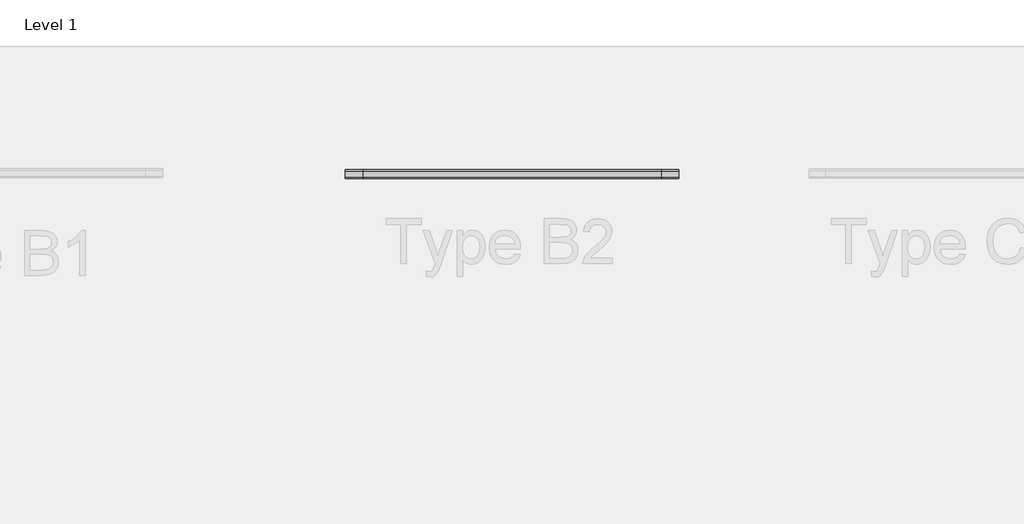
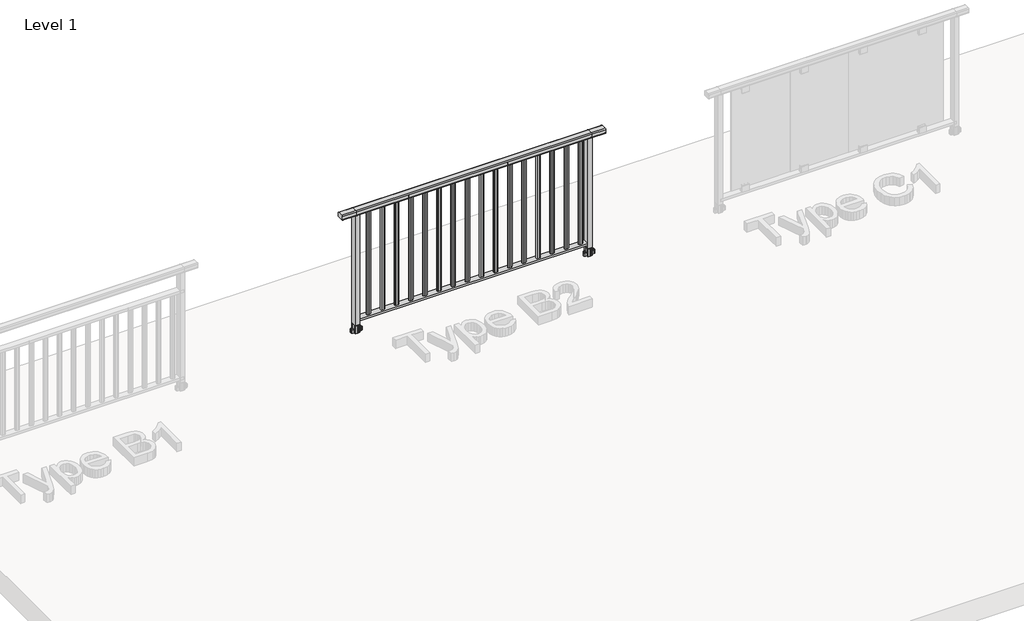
# One storey, part 4 of 9: 1 railing.
"""IFC4 building model written with IfcOpenShell, lengths in millimetres."""

import ifcopenshell
import ifcopenshell.guid

model = None  # the IFC model being written
_history = None  # IfcOwnerHistory: only IFC2X3 demands one
_inside = {}  # id of a spatial element -> (the spatial element, [elements in it])
_under = {}  # id of a project, library or spatial element -> (it, [spatial elements below it])
_declared = {}  # id of a project -> (the project, [libraries it declares])
_typed = {}  # id of a type object -> (the type object, [elements of that type])
_made_of = {}  # id of a material, layer set ... -> (it, [elements and type objects made of it])


def new_model(schema):
    """Start an empty IFC model of exactly this schema.

    Asked for "IFC4X3", IfcOpenShell would pick the latest addendum, in which some entities
    have other attributes; the version numbers below select the first issue.
    IFC2X3 requires an IfcOwnerHistory on every rooted entity: one is made here for all.
    """
    global model, _history
    if schema == "IFC4X3":
        model = ifcopenshell.file(schema_version=(4, 3, 0, 0))
    else:
        model = ifcopenshell.file(schema=schema)
    _inside.clear()
    _under.clear()
    _declared.clear()
    _typed.clear()
    _made_of.clear()
    _history = None
    if model.schema == "IFC2X3":
        org = make("IfcOrganization", Name="unknown")
        user = make(
            "IfcPersonAndOrganization",
            ThePerson=make("IfcPerson", FamilyName="unknown"),
            TheOrganization=org,
        )
        app = make(
            "IfcApplication",
            ApplicationDeveloper=org,
            Version="unknown",
            ApplicationFullName="unknown",
            ApplicationIdentifier="unknown",
        )
        _history = make(
            "IfcOwnerHistory",
            OwningUser=user,
            OwningApplication=app,
            ChangeAction="ADDED",
            CreationDate=0,
        )
    return model


def make(cls, **values):
    """One entity of the class cls with the attributes given. An attribute that is None is left unset."""
    return model.create_entity(
        cls, **{name: value for name, value in values.items() if value is not None}
    )


def rooted(cls, **values):
    """An entity with a GlobalId (a new one), such as an element, a storey or a relation."""
    return make(cls, GlobalId=ifcopenshell.guid.new(), OwnerHistory=_history, **values)


def si_unit(unit_type, name, prefix=None):
    """IfcSIUnit, for example si_unit("LENGTHUNIT", "METRE", prefix="MILLI")."""
    return make("IfcSIUnit", UnitType=unit_type, Prefix=prefix, Name=name)


def assignment(units):
    """IfcUnitAssignment: the units of a project."""
    return None if units is None else make("IfcUnitAssignment", Units=units)


def point(xyz):
    """IfcCartesianPoint."""
    return None if xyz is None else make("IfcCartesianPoint", Coordinates=xyz)


def direction(xyz):
    """IfcDirection."""
    return None if xyz is None else make("IfcDirection", DirectionRatios=xyz)


def frame(location, z_axis=None, x_axis=None):
    """IfcAxis2Placement3D, a coordinate frame: its origin and axes. An axis left out is left unset."""
    return make(
        "IfcAxis2Placement3D",
        Location=point(location),
        Axis=direction(z_axis),
        RefDirection=direction(x_axis),
    )


def frame_2d(location, x_axis=None):
    """IfcAxis2Placement2D, a coordinate frame in the plane: its origin and x axis."""
    return make(
        "IfcAxis2Placement2D", Location=point(location), RefDirection=direction(x_axis)
    )


def origin():
    """The frame at (0, 0, 0) with its axes left unset."""
    return frame((0.0, 0.0, 0.0))


def origin_with_axes():
    """The frame at (0, 0, 0) with the z axis (0, 0, 1) and the x axis (1, 0, 0) written out."""
    return frame((0.0, 0.0, 0.0), z_axis=(0.0, 0.0, 1.0), x_axis=(1.0, 0.0, 0.0))


def place(relative_to, where):
    """IfcLocalPlacement: puts the frame where relative to a parent placement (None: the world)."""
    return make(
        "IfcLocalPlacement", PlacementRelTo=relative_to, RelativePlacement=where
    )


def context(
    kind, dimensions, precision=None, world=None, true_north=None, identifier=None
):
    """IfcGeometricRepresentationContext, for example the 3D "Model" context."""
    return make(
        "IfcGeometricRepresentationContext",
        ContextIdentifier=identifier,
        ContextType=kind,
        CoordinateSpaceDimension=dimensions,
        Precision=precision,
        WorldCoordinateSystem=world,
        TrueNorth=true_north,
    )


def project(units=None, contexts=None):
    """IfcProject with its units and contexts."""
    return rooted(
        "IfcProject",
        Name="project",
        RepresentationContexts=contexts,
        UnitsInContext=assignment(units),
    )


def spatial(cls, under=None, at=None, **own):
    """A site, building, storey or space (cls), placed at a placement, below another one or the project."""
    s = rooted(cls, ObjectPlacement=at, **own)
    if under is not None:
        _under.setdefault(under.id(), (under, []))[1].append(s)
    return s


def polyline(points):
    """IfcPolyline through the points."""
    return make("IfcPolyline", Points=[point(p) for p in points])


def circle_curve(where, radius):
    """IfcCircle in the frame where."""
    return make("IfcCircle", Position=where, Radius=radius)


def trimmed(basis, trim1, trim2, sense, master):
    """IfcTrimmedCurve: the piece of a basis curve between two trims."""
    return make(
        "IfcTrimmedCurve",
        BasisCurve=basis,
        Trim1=trim1,
        Trim2=trim2,
        SenseAgreement=sense,
        MasterRepresentation=master,
    )


def segment(curve, same_sense, transition):
    """IfcCompositeCurveSegment."""
    return make(
        "IfcCompositeCurveSegment",
        Transition=transition,
        SameSense=same_sense,
        ParentCurve=curve,
    )


def composite_curve(segments, self_intersect=None):
    """IfcCompositeCurve: segments joined end to end."""
    return make("IfcCompositeCurve", Segments=segments, SelfIntersect=self_intersect)


def outline(outer, holes=None, kind="AREA"):
    """IfcArbitraryClosedProfileDef: a profile drawn as a closed curve; with holes, ...WithVoids."""
    if holes is None:
        return make("IfcArbitraryClosedProfileDef", ProfileType=kind, OuterCurve=outer)
    return make(
        "IfcArbitraryProfileDefWithVoids",
        ProfileType=kind,
        OuterCurve=outer,
        InnerCurves=holes,
    )


def extrude(swept, where, along, depth):
    """IfcExtrudedAreaSolid: the profile swept, set in the frame where, extruded along a direction by depth."""
    return make(
        "IfcExtrudedAreaSolid",
        SweptArea=swept,
        Position=where,
        ExtrudedDirection=direction(along),
        Depth=depth,
    )


def shape(context_of_items, identifier, shape_type, items):
    """IfcShapeRepresentation: the items that make up one representation, for example the "Body"."""
    return make(
        "IfcShapeRepresentation",
        ContextOfItems=context_of_items,
        RepresentationIdentifier=identifier,
        RepresentationType=shape_type,
        Items=items,
    )


def made_of(thing, what):
    """Note that an element or type object is made of a material, layer set ...; save() writes the relation."""
    if what is not None:
        _made_of.setdefault(what.id(), (what, []))[1].append(thing)
    return thing


def element(
    cls,
    number,
    at=None,
    inside=None,
    cuts=None,
    type_object=None,
    material=None,
    context=None,
    identifier="Body",
    shape_type=None,
    held_by="IfcProductDefinitionShape",
    body=None,
    shapes=None,
    **own,
):
    """One element of the class cls, such as IfcWall. Its Tag is "e" and its number.

    at: its placement. inside: the storey or other place that contains it. cuts: it is an
    opening in that element (IfcRelVoidsElement). A single representation is given by context,
    identifier, shape_type and body (its items); several are given by shapes. held_by: the class
    of the entity that holds the representations. save() writes the other relations.
    """
    e = rooted(cls, Tag="e%d" % number, ObjectPlacement=at, **own)
    if body is not None:
        shapes = [shape(context, identifier, shape_type, body)]
    if shapes is not None:
        e.Representation = make(held_by, Representations=shapes)
    if inside is not None:
        _inside.setdefault(inside.id(), (inside, []))[1].append(e)
    if cuts is not None:
        rooted(
            "IfcRelVoidsElement", RelatingBuildingElement=cuts, RelatedOpeningElement=e
        )
    if type_object is not None:
        _typed.setdefault(type_object.id(), (type_object, []))[1].append(e)
    return made_of(e, material)


def aggregate(whole, parts):
    """IfcRelAggregates: a whole, such as a stair, and the parts it consists of."""
    return rooted("IfcRelAggregates", RelatingObject=whole, RelatedObjects=parts)


def save(model, path):
    """Write the relations noted so far, then the file.

    IfcRelAggregates (storeys below a building ...), IfcRelContainedInSpatialStructure (elements
    in a storey), IfcRelDefinesByType, IfcRelAssociatesMaterial and IfcRelDeclares: one each for
    every whole, place, type object, material and project.
    """
    for whole, parts in _under.values():
        aggregate(whole, parts)
    for where, things in _inside.values():
        rooted(
            "IfcRelContainedInSpatialStructure",
            RelatedElements=things,
            RelatingStructure=where,
        )
    for kind, things in _typed.values():
        rooted("IfcRelDefinesByType", RelatedObjects=things, RelatingType=kind)
    for what, things in _made_of.values():
        rooted("IfcRelAssociatesMaterial", RelatedObjects=things, RelatingMaterial=what)
    for by, libraries in _declared.values():
        rooted("IfcRelDeclares", RelatingContext=by, RelatedDefinitions=libraries)
    model.write(path)


def plane_surface(at):
    """IfcPlane: the flat surface through the origin of the frame at, square to its z axis."""
    return make("IfcPlane", Position=at)


def cylinder_surface(at, radius):
    """IfcCylindricalSurface: all points at the distance radius from the z axis of the frame at."""
    return make("IfcCylindricalSurface", Position=at, Radius=radius)


def advanced_brep(points, edges, surfaces, faces):
    """IfcAdvancedBrep: a solid bounded by faces that lie on surfaces and meet in shared edges.

    An edge is (start, end): straight between two places in points (the first is 0);
    or (start, end, curve); or (start, end, curve, False) where it runs against its curve.
    A face is (place in surfaces, loops), or (place, loops, False) where it looks against
    its surface's normal. A loop lists edges by number (the first is 1), with a minus sign
    where the edge is run from its end to its start. The first loop is the outer one.
    """
    corners = [point(p) for p in points]
    vertices = [make("IfcVertexPoint", VertexGeometry=c) for c in corners]
    made = []
    for start, end, *more in edges:
        made.append(
            make(
                "IfcEdgeCurve",
                EdgeStart=vertices[start],
                EdgeEnd=vertices[end],
                EdgeGeometry=more[0] if more else make("IfcPolyline", Points=[corners[start], corners[end]]),
                SameSense=more[1] if len(more) > 1 else True,
            )
        )
    hull = []
    for where, loops, *sense in faces:
        bounds = []
        for j, loop in enumerate(loops):
            ring = [make("IfcOrientedEdge", EdgeElement=made[abs(k) - 1], Orientation=k > 0) for k in loop]
            bounds.append(
                make(
                    "IfcFaceOuterBound" if j == 0 else "IfcFaceBound",
                    Bound=make("IfcEdgeLoop", EdgeList=ring),
                    Orientation=True,
                )
            )
        hull.append(make("IfcAdvancedFace", Bounds=bounds, FaceSurface=surfaces[where], SameSense=sense[0] if sense else True))
    return make("IfcAdvancedBrep", Outer=make("IfcClosedShell", CfsFaces=hull))


model = new_model("IFC4")

# Units and contexts
model_context = context("Model", 3, world=origin())
ifc_project = project(units=[si_unit("LENGTHUNIT", "METRE", prefix="MILLI")], contexts=[model_context])

# Site, building, storey
site = spatial("IfcSite", under=ifc_project)
building = spatial("IfcBuilding", under=site)
storey = spatial("IfcBuildingStorey", under=building, Name="Level 1", Elevation=0.0)

# Railing
placement = place(None, origin())
element("IfcRailing", 1, ObjectType="OF 60 TYPE B2", at=placement, inside=storey, context=model_context, shape_type="SolidModel", body=[
    advanced_brep(
    [(203.9717845, 1937.6242154, 1100.0), (203.9717845, 1945.6242154, 1092.0), (203.9717845, 1945.6242154, 1064.0), (203.9717845, 1941.6242154, 1060.0), (203.9717845, 1889.6242154, 1060.0), (203.9717845, 1885.6242154, 1064.0), (203.9717845, 1885.6242154, 1092.0), (203.9717845, 1893.6242154, 1100.0), (320.9697911, 1937.6242154, 1100.0), (320.9697911, 1945.6242154, 1092.0), (320.9697911, 1945.6242154, 1064.0), (320.9697911, 1941.6242154, 1060.0), (320.9697911, 1889.6242154, 1060.0), (320.9697911, 1885.6242154, 1064.0), (320.9697911, 1885.6242154, 1092.0), (320.9697911, 1893.6242154, 1100.0), (2320.9697911, 1937.6242154, 1100.0), (2320.9697911, 1945.6242154, 1092.0), (2320.9697911, 1945.6242154, 1064.0), (2320.9697911, 1941.6242154, 1060.0), (2320.9697911, 1889.6242154, 1060.0), (2320.9697911, 1885.6242154, 1064.0), (2320.9697911, 1885.6242154, 1092.0), (2320.9697911, 1893.6242154, 1100.0), (2437.9677978, 1937.6242154, 1100.0), (2437.9677978, 1893.6242154, 1100.0), (2437.9677978, 1885.6242154, 1092.0), (2437.9677978, 1885.6242154, 1064.0), (2437.9677978, 1889.6242154, 1060.0), (2437.9677978, 1941.6242154, 1060.0), (2437.9677978, 1945.6242154, 1064.0), (2437.9677978, 1945.6242154, 1092.0)],
    [
        (0, 1, circle_curve(frame((203.9717845, 1937.6242154, 1092.0), z_axis=(-1.0, 0.0, 0.0), x_axis=(0.0, 1.0, 0.0)), 8.0)),
        (1, 2),
        (2, 3, circle_curve(frame((203.9717845, 1941.6242154, 1064.0), z_axis=(-1.0, 0.0, 0.0), x_axis=(0.0, 0.0, -1.0)), 4.0)),
        (3, 4),
        (4, 5, circle_curve(frame((203.9717845, 1889.6242154, 1064.0), z_axis=(-1.0, 0.0, 0.0), x_axis=(0.0, -1.0, 0.0)), 4.0)),
        (5, 6),
        (6, 7, circle_curve(frame((203.9717845, 1893.6242154, 1092.0), z_axis=(-1.0, 0.0, 0.0), x_axis=(0.0, 0.0, 1.0)), 8.0)),
        (7, 0),
        (0, 8),
        (8, 9, circle_curve(frame((320.9697911, 1937.6242154, 1092.0), z_axis=(-1.0, 0.0, 0.0), x_axis=(0.0, 1.0, 0.0)), 8.0)),
        (9, 1),
        (9, 10),
        (10, 2),
        (10, 11, circle_curve(frame((320.9697911, 1941.6242154, 1064.0), z_axis=(-1.0, 0.0, 0.0), x_axis=(0.0, 0.0, -1.0)), 4.0)),
        (11, 3),
        (11, 12),
        (12, 4),
        (12, 13, circle_curve(frame((320.9697911, 1889.6242154, 1064.0), z_axis=(-1.0, 0.0, 0.0), x_axis=(0.0, -1.0, 0.0)), 4.0)),
        (13, 5),
        (13, 14),
        (14, 6),
        (14, 15, circle_curve(frame((320.9697911, 1893.6242154, 1092.0), z_axis=(-1.0, 0.0, 0.0), x_axis=(0.0, 0.0, 1.0)), 8.0)),
        (15, 7),
        (15, 8),
        (8, 16),
        (16, 17, circle_curve(frame((2320.9697911, 1937.6242154, 1092.0), z_axis=(-1.0, 0.0, 0.0), x_axis=(0.0, 1.0, 0.0)), 8.0)),
        (17, 9),
        (17, 18),
        (18, 10),
        (18, 19, circle_curve(frame((2320.9697911, 1941.6242154, 1064.0), z_axis=(-1.0, 0.0, 0.0), x_axis=(0.0, 0.0, -1.0)), 4.0)),
        (19, 11),
        (19, 20),
        (20, 12),
        (20, 21, circle_curve(frame((2320.9697911, 1889.6242154, 1064.0), z_axis=(-1.0, 0.0, 0.0), x_axis=(0.0, -1.0, 0.0)), 4.0)),
        (21, 13),
        (21, 22),
        (22, 14),
        (22, 23, circle_curve(frame((2320.9697911, 1893.6242154, 1092.0), z_axis=(-1.0, 0.0, 0.0), x_axis=(0.0, 0.0, 1.0)), 8.0)),
        (23, 15),
        (23, 16),
        (24, 25),
        (25, 26, circle_curve(frame((2437.9677978, 1893.6242154, 1092.0), z_axis=(1.0, 0.0, 0.0), x_axis=(0.0, 0.0, 1.0)), 8.0)),
        (26, 27),
        (27, 28, circle_curve(frame((2437.9677978, 1889.6242154, 1064.0), z_axis=(1.0, 0.0, 0.0), x_axis=(0.0, -1.0, 0.0)), 4.0)),
        (28, 29),
        (29, 30, circle_curve(frame((2437.9677978, 1941.6242154, 1064.0), z_axis=(1.0, 0.0, 0.0), x_axis=(0.0, 0.0, -1.0)), 4.0)),
        (30, 31),
        (31, 24, circle_curve(frame((2437.9677978, 1937.6242154, 1092.0), z_axis=(1.0, 0.0, 0.0), x_axis=(0.0, 1.0, 0.0)), 8.0)),
        (16, 24),
        (31, 17),
        (30, 18),
        (29, 19),
        (28, 20),
        (27, 21),
        (26, 22),
        (25, 23),
    ],
    [
        plane_surface(frame((203.9717845, 1945.6242154, 1100.0), z_axis=(-1.0, 0.0, 0.0), x_axis=(0.0, 1.0, 0.0))),
        cylinder_surface(frame((203.9717845, 1937.6242154, 1092.0), z_axis=(-1.0, 0.0, 0.0), x_axis=(0.0, 1.0, 0.0)), 8.0),
        plane_surface(frame((203.9717845, 1945.6242154, 1092.0), z_axis=(0.0, 1.0, 0.0), x_axis=(1.0, 0.0, 0.0))),
        cylinder_surface(frame((203.9717845, 1941.6242154, 1064.0), z_axis=(-1.0, 0.0, 0.0), x_axis=(0.0, 0.0, -1.0)), 4.0),
        plane_surface(frame((203.9717845, 1941.6242154, 1060.0), z_axis=(0.0, 0.0, -1.0), x_axis=(1.0, 0.0, 0.0))),
        cylinder_surface(frame((203.9717845, 1889.6242154, 1064.0), z_axis=(-1.0, 0.0, 0.0), x_axis=(0.0, -1.0, 0.0)), 4.0),
        plane_surface(frame((203.9717845, 1885.6242154, 1064.0), z_axis=(0.0, -1.0, 0.0), x_axis=(1.0, 0.0, 0.0))),
        cylinder_surface(frame((203.9717845, 1893.6242154, 1092.0), z_axis=(-1.0, 0.0, 0.0), x_axis=(0.0, 0.0, 1.0)), 8.0),
        plane_surface(frame((203.9717845, 1893.6242154, 1100.0), z_axis=(0.0, 0.0, 1.0), x_axis=(1.0, 0.0, 0.0))),
        cylinder_surface(frame((320.9697911, 1937.6242154, 1092.0), z_axis=(-1.0, 0.0, 0.0), x_axis=(0.0, 1.0, 0.0)), 8.0),
        plane_surface(frame((320.9697911, 1945.6242154, 1092.0), z_axis=(0.0, 1.0, 0.0), x_axis=(1.0, 0.0, 0.0))),
        cylinder_surface(frame((320.9697911, 1941.6242154, 1064.0), z_axis=(-1.0, 0.0, 0.0), x_axis=(0.0, 0.0, -1.0)), 4.0),
        plane_surface(frame((320.9697911, 1941.6242154, 1060.0), z_axis=(0.0, 0.0, -1.0), x_axis=(1.0, 0.0, 0.0))),
        cylinder_surface(frame((320.9697911, 1889.6242154, 1064.0), z_axis=(-1.0, 0.0, 0.0), x_axis=(0.0, -1.0, 0.0)), 4.0),
        plane_surface(frame((320.9697911, 1885.6242154, 1064.0), z_axis=(0.0, -1.0, 0.0), x_axis=(1.0, 0.0, 0.0))),
        cylinder_surface(frame((320.9697911, 1893.6242154, 1092.0), z_axis=(-1.0, 0.0, 0.0), x_axis=(0.0, 0.0, 1.0)), 8.0),
        plane_surface(frame((320.9697911, 1893.6242154, 1100.0), z_axis=(0.0, 0.0, 1.0), x_axis=(1.0, 0.0, 0.0))),
        plane_surface(frame((2437.9677978, 1945.6242154, 1100.0), z_axis=(1.0, 0.0, 0.0), x_axis=(0.0, 1.0, 0.0))),
        cylinder_surface(frame((2320.9697911, 1937.6242154, 1092.0), z_axis=(-1.0, 0.0, 0.0), x_axis=(0.0, 1.0, 0.0)), 8.0),
        plane_surface(frame((2320.9697911, 1945.6242154, 1092.0), z_axis=(0.0, 1.0, 0.0), x_axis=(1.0, 0.0, 0.0))),
        cylinder_surface(frame((2320.9697911, 1941.6242154, 1064.0), z_axis=(-1.0, 0.0, 0.0), x_axis=(0.0, 0.0, -1.0)), 4.0),
        plane_surface(frame((2320.9697911, 1941.6242154, 1060.0), z_axis=(0.0, 0.0, -1.0), x_axis=(1.0, 0.0, 0.0))),
        cylinder_surface(frame((2320.9697911, 1889.6242154, 1064.0), z_axis=(-1.0, 0.0, 0.0), x_axis=(0.0, -1.0, 0.0)), 4.0),
        plane_surface(frame((2320.9697911, 1885.6242154, 1064.0), z_axis=(0.0, -1.0, 0.0), x_axis=(1.0, 0.0, 0.0))),
        cylinder_surface(frame((2320.9697911, 1893.6242154, 1092.0), z_axis=(-1.0, 0.0, 0.0), x_axis=(0.0, 0.0, 1.0)), 8.0),
        plane_surface(frame((2320.9697911, 1893.6242154, 1100.0), z_axis=(0.0, 0.0, 1.0), x_axis=(1.0, 0.0, 0.0))),
    ],
    [
        (0, [[1, 2, 3, 4, 5, 6, 7, 8]]),
        (1, [[-1, 9, 10, 11]]),
        (2, [[-2, -11, 12, 13]]),
        (3, [[-3, -13, 14, 15]]),
        (4, [[-4, -15, 16, 17]]),
        (5, [[-5, -17, 18, 19]]),
        (6, [[-6, -19, 20, 21]]),
        (7, [[-7, -21, 22, 23]]),
        (8, [[-8, -23, 24, -9]]),
        (9, [[-10, 25, 26, 27]]),
        (10, [[-12, -27, 28, 29]]),
        (11, [[-14, -29, 30, 31]]),
        (12, [[-16, -31, 32, 33]]),
        (13, [[-18, -33, 34, 35]]),
        (14, [[-20, -35, 36, 37]]),
        (15, [[-22, -37, 38, 39]]),
        (16, [[-24, -39, 40, -25]]),
        (17, [[41, 42, 43, 44, 45, 46, 47, 48]]),
        (18, [[-26, 49, -48, 50]]),
        (19, [[-28, -50, -47, 51]]),
        (20, [[-30, -51, -46, 52]]),
        (21, [[-32, -52, -45, 53]]),
        (22, [[-34, -53, -44, 54]]),
        (23, [[-36, -54, -43, 55]]),
        (24, [[-38, -55, -42, 56]]),
        (25, [[-40, -56, -41, -49]]),
    ],
),
    extrude(outline(polyline([(320.9697911, 1893.1242154), (320.9697911, 1944.1242154), (2320.9697911, 1944.1242154), (2320.9697911, 1893.1242154), (320.9697911, 1893.1242154)])), frame((0.0, 0.0, 98.9061283), z_axis=(0.0, 0.0, 1.0), x_axis=(1.0, 0.0, 0.0)), (0.0, 0.0, 1.0), 21.0938717),
    extrude(outline(composite_curve([segment(trimmed(circle_curve(frame_2d((2248.3697911, 1915.6242154)), 10.1), [point((2258.4697911, 1915.6242154))], [point((2248.3697911, 1905.5242154))], False, "CARTESIAN"), True, "CONTINUOUS"), segment(polyline([(2248.3697911, 1905.5242154), (2233.5697911, 1905.5242154)]), True, "CONTINUOUS"), segment(trimmed(circle_curve(frame_2d((2233.5697911, 1915.6242154)), 10.1), [point((2233.5697911, 1905.5242154))], [point((2223.4697911, 1915.6242154))], False, "CARTESIAN"), True, "CONTINUOUS"), segment(trimmed(circle_curve(frame_2d((2233.5697911, 1915.6242154)), 10.1), [point((2223.4697911, 1915.6242154))], [point((2233.5697911, 1925.7242154))], False, "CARTESIAN"), True, "CONTINUOUS"), segment(polyline([(2233.5697911, 1925.7242154), (2248.3697911, 1925.7242154)]), True, "CONTINUOUS"), segment(trimmed(circle_curve(frame_2d((2248.3697911, 1915.6242154)), 10.1), [point((2248.3697911, 1925.7242154))], [point((2258.4697911, 1915.6242154))], False, "CARTESIAN"), True, "CONTINUOUS")], self_intersect=False)), frame((0.0, 0.0, 120.0), z_axis=(0.0, 0.0, 1.0), x_axis=(1.0, 0.0, 0.0)), (0.0, 0.0, 1.0), 940.0),
    extrude(outline(composite_curve([segment(trimmed(circle_curve(frame_2d((2128.3697911, 1915.6242154)), 10.1), [point((2138.4697911, 1915.6242154))], [point((2128.3697911, 1905.5242154))], False, "CARTESIAN"), True, "CONTINUOUS"), segment(polyline([(2128.3697911, 1905.5242154), (2113.5697911, 1905.5242154)]), True, "CONTINUOUS"), segment(trimmed(circle_curve(frame_2d((2113.5697911, 1915.6242154)), 10.1), [point((2113.5697911, 1905.5242154))], [point((2103.4697911, 1915.6242154))], False, "CARTESIAN"), True, "CONTINUOUS"), segment(trimmed(circle_curve(frame_2d((2113.5697911, 1915.6242154)), 10.1), [point((2103.4697911, 1915.6242154))], [point((2113.5697911, 1925.7242154))], False, "CARTESIAN"), True, "CONTINUOUS"), segment(polyline([(2113.5697911, 1925.7242154), (2128.3697911, 1925.7242154)]), True, "CONTINUOUS"), segment(trimmed(circle_curve(frame_2d((2128.3697911, 1915.6242154)), 10.1), [point((2128.3697911, 1925.7242154))], [point((2138.4697911, 1915.6242154))], False, "CARTESIAN"), True, "CONTINUOUS")], self_intersect=False)), frame((0.0, 0.0, 120.0), z_axis=(0.0, 0.0, 1.0), x_axis=(1.0, 0.0, 0.0)), (0.0, 0.0, 1.0), 940.0),
    extrude(outline(composite_curve([segment(trimmed(circle_curve(frame_2d((2008.3697911, 1915.6242154)), 10.1), [point((2018.4697911, 1915.6242154))], [point((2008.3697911, 1905.5242154))], False, "CARTESIAN"), True, "CONTINUOUS"), segment(polyline([(2008.3697911, 1905.5242154), (1993.5697911, 1905.5242154)]), True, "CONTINUOUS"), segment(trimmed(circle_curve(frame_2d((1993.5697911, 1915.6242154)), 10.1), [point((1993.5697911, 1905.5242154))], [point((1983.4697911, 1915.6242154))], False, "CARTESIAN"), True, "CONTINUOUS"), segment(trimmed(circle_curve(frame_2d((1993.5697911, 1915.6242154)), 10.1), [point((1983.4697911, 1915.6242154))], [point((1993.5697911, 1925.7242154))], False, "CARTESIAN"), True, "CONTINUOUS"), segment(polyline([(1993.5697911, 1925.7242154), (2008.3697911, 1925.7242154)]), True, "CONTINUOUS"), segment(trimmed(circle_curve(frame_2d((2008.3697911, 1915.6242154)), 10.1), [point((2008.3697911, 1925.7242154))], [point((2018.4697911, 1915.6242154))], False, "CARTESIAN"), True, "CONTINUOUS")], self_intersect=False)), frame((0.0, 0.0, 120.0), z_axis=(0.0, 0.0, 1.0), x_axis=(1.0, 0.0, 0.0)), (0.0, 0.0, 1.0), 940.0),
    extrude(outline(composite_curve([segment(trimmed(circle_curve(frame_2d((1888.3697911, 1915.6242154)), 10.1), [point((1898.4697911, 1915.6242154))], [point((1888.3697911, 1905.5242154))], False, "CARTESIAN"), True, "CONTINUOUS"), segment(polyline([(1888.3697911, 1905.5242154), (1873.5697911, 1905.5242154)]), True, "CONTINUOUS"), segment(trimmed(circle_curve(frame_2d((1873.5697911, 1915.6242154)), 10.1), [point((1873.5697911, 1905.5242154))], [point((1863.4697911, 1915.6242154))], False, "CARTESIAN"), True, "CONTINUOUS"), segment(trimmed(circle_curve(frame_2d((1873.5697911, 1915.6242154)), 10.1), [point((1863.4697911, 1915.6242154))], [point((1873.5697911, 1925.7242154))], False, "CARTESIAN"), True, "CONTINUOUS"), segment(polyline([(1873.5697911, 1925.7242154), (1888.3697911, 1925.7242154)]), True, "CONTINUOUS"), segment(trimmed(circle_curve(frame_2d((1888.3697911, 1915.6242154)), 10.1), [point((1888.3697911, 1925.7242154))], [point((1898.4697911, 1915.6242154))], False, "CARTESIAN"), True, "CONTINUOUS")], self_intersect=False)), frame((0.0, 0.0, 120.0), z_axis=(0.0, 0.0, 1.0), x_axis=(1.0, 0.0, 0.0)), (0.0, 0.0, 1.0), 940.0),
    extrude(outline(composite_curve([segment(trimmed(circle_curve(frame_2d((1768.3697911, 1915.6242154)), 10.1), [point((1778.4697911, 1915.6242154))], [point((1768.3697911, 1905.5242154))], False, "CARTESIAN"), True, "CONTINUOUS"), segment(polyline([(1768.3697911, 1905.5242154), (1753.5697911, 1905.5242154)]), True, "CONTINUOUS"), segment(trimmed(circle_curve(frame_2d((1753.5697911, 1915.6242154)), 10.1), [point((1753.5697911, 1905.5242154))], [point((1743.4697911, 1915.6242154))], False, "CARTESIAN"), True, "CONTINUOUS"), segment(trimmed(circle_curve(frame_2d((1753.5697911, 1915.6242154)), 10.1), [point((1743.4697911, 1915.6242154))], [point((1753.5697911, 1925.7242154))], False, "CARTESIAN"), True, "CONTINUOUS"), segment(polyline([(1753.5697911, 1925.7242154), (1768.3697911, 1925.7242154)]), True, "CONTINUOUS"), segment(trimmed(circle_curve(frame_2d((1768.3697911, 1915.6242154)), 10.1), [point((1768.3697911, 1925.7242154))], [point((1778.4697911, 1915.6242154))], False, "CARTESIAN"), True, "CONTINUOUS")], self_intersect=False)), frame((0.0, 0.0, 120.0), z_axis=(0.0, 0.0, 1.0), x_axis=(1.0, 0.0, 0.0)), (0.0, 0.0, 1.0), 940.0),
    extrude(outline(composite_curve([segment(trimmed(circle_curve(frame_2d((1648.3697911, 1915.6242154)), 10.1), [point((1658.4697911, 1915.6242154))], [point((1648.3697911, 1905.5242154))], False, "CARTESIAN"), True, "CONTINUOUS"), segment(polyline([(1648.3697911, 1905.5242154), (1633.5697911, 1905.5242154)]), True, "CONTINUOUS"), segment(trimmed(circle_curve(frame_2d((1633.5697911, 1915.6242154)), 10.1), [point((1633.5697911, 1905.5242154))], [point((1623.4697911, 1915.6242154))], False, "CARTESIAN"), True, "CONTINUOUS"), segment(trimmed(circle_curve(frame_2d((1633.5697911, 1915.6242154)), 10.1), [point((1623.4697911, 1915.6242154))], [point((1633.5697911, 1925.7242154))], False, "CARTESIAN"), True, "CONTINUOUS"), segment(polyline([(1633.5697911, 1925.7242154), (1648.3697911, 1925.7242154)]), True, "CONTINUOUS"), segment(trimmed(circle_curve(frame_2d((1648.3697911, 1915.6242154)), 10.1), [point((1648.3697911, 1925.7242154))], [point((1658.4697911, 1915.6242154))], False, "CARTESIAN"), True, "CONTINUOUS")], self_intersect=False)), frame((0.0, 0.0, 120.0), z_axis=(0.0, 0.0, 1.0), x_axis=(1.0, 0.0, 0.0)), (0.0, 0.0, 1.0), 940.0),
    extrude(outline(composite_curve([segment(trimmed(circle_curve(frame_2d((1528.3697911, 1915.6242154)), 10.1), [point((1538.4697911, 1915.6242154))], [point((1528.3697911, 1905.5242154))], False, "CARTESIAN"), True, "CONTINUOUS"), segment(polyline([(1528.3697911, 1905.5242154), (1513.5697911, 1905.5242154)]), True, "CONTINUOUS"), segment(trimmed(circle_curve(frame_2d((1513.5697911, 1915.6242154)), 10.1), [point((1513.5697911, 1905.5242154))], [point((1503.4697911, 1915.6242154))], False, "CARTESIAN"), True, "CONTINUOUS"), segment(trimmed(circle_curve(frame_2d((1513.5697911, 1915.6242154)), 10.1), [point((1503.4697911, 1915.6242154))], [point((1513.5697911, 1925.7242154))], False, "CARTESIAN"), True, "CONTINUOUS"), segment(polyline([(1513.5697911, 1925.7242154), (1528.3697911, 1925.7242154)]), True, "CONTINUOUS"), segment(trimmed(circle_curve(frame_2d((1528.3697911, 1915.6242154)), 10.1), [point((1528.3697911, 1925.7242154))], [point((1538.4697911, 1915.6242154))], False, "CARTESIAN"), True, "CONTINUOUS")], self_intersect=False)), frame((0.0, 0.0, 120.0), z_axis=(0.0, 0.0, 1.0), x_axis=(1.0, 0.0, 0.0)), (0.0, 0.0, 1.0), 940.0),
    extrude(outline(composite_curve([segment(trimmed(circle_curve(frame_2d((1408.3697911, 1915.6242154)), 10.1), [point((1418.4697911, 1915.6242154))], [point((1408.3697911, 1905.5242154))], False, "CARTESIAN"), True, "CONTINUOUS"), segment(polyline([(1408.3697911, 1905.5242154), (1393.5697911, 1905.5242154)]), True, "CONTINUOUS"), segment(trimmed(circle_curve(frame_2d((1393.5697911, 1915.6242154)), 10.1), [point((1393.5697911, 1905.5242154))], [point((1383.4697911, 1915.6242154))], False, "CARTESIAN"), True, "CONTINUOUS"), segment(trimmed(circle_curve(frame_2d((1393.5697911, 1915.6242154)), 10.1), [point((1383.4697911, 1915.6242154))], [point((1393.5697911, 1925.7242154))], False, "CARTESIAN"), True, "CONTINUOUS"), segment(polyline([(1393.5697911, 1925.7242154), (1408.3697911, 1925.7242154)]), True, "CONTINUOUS"), segment(trimmed(circle_curve(frame_2d((1408.3697911, 1915.6242154)), 10.1), [point((1408.3697911, 1925.7242154))], [point((1418.4697911, 1915.6242154))], False, "CARTESIAN"), True, "CONTINUOUS")], self_intersect=False)), frame((0.0, 0.0, 120.0), z_axis=(0.0, 0.0, 1.0), x_axis=(1.0, 0.0, 0.0)), (0.0, 0.0, 1.0), 940.0),
    extrude(outline(composite_curve([segment(trimmed(circle_curve(frame_2d((1288.3697911, 1915.6242154)), 10.1), [point((1298.4697911, 1915.6242154))], [point((1288.3697911, 1905.5242154))], False, "CARTESIAN"), True, "CONTINUOUS"), segment(polyline([(1288.3697911, 1905.5242154), (1273.5697911, 1905.5242154)]), True, "CONTINUOUS"), segment(trimmed(circle_curve(frame_2d((1273.5697911, 1915.6242154)), 10.1), [point((1273.5697911, 1905.5242154))], [point((1263.4697911, 1915.6242154))], False, "CARTESIAN"), True, "CONTINUOUS"), segment(trimmed(circle_curve(frame_2d((1273.5697911, 1915.6242154)), 10.1), [point((1263.4697911, 1915.6242154))], [point((1273.5697911, 1925.7242154))], False, "CARTESIAN"), True, "CONTINUOUS"), segment(polyline([(1273.5697911, 1925.7242154), (1288.3697911, 1925.7242154)]), True, "CONTINUOUS"), segment(trimmed(circle_curve(frame_2d((1288.3697911, 1915.6242154)), 10.1), [point((1288.3697911, 1925.7242154))], [point((1298.4697911, 1915.6242154))], False, "CARTESIAN"), True, "CONTINUOUS")], self_intersect=False)), frame((0.0, 0.0, 120.0), z_axis=(0.0, 0.0, 1.0), x_axis=(1.0, 0.0, 0.0)), (0.0, 0.0, 1.0), 940.0),
    extrude(outline(composite_curve([segment(trimmed(circle_curve(frame_2d((1168.3697911, 1915.6242154)), 10.1), [point((1178.4697911, 1915.6242154))], [point((1168.3697911, 1905.5242154))], False, "CARTESIAN"), True, "CONTINUOUS"), segment(polyline([(1168.3697911, 1905.5242154), (1153.5697911, 1905.5242154)]), True, "CONTINUOUS"), segment(trimmed(circle_curve(frame_2d((1153.5697911, 1915.6242154)), 10.1), [point((1153.5697911, 1905.5242154))], [point((1143.4697911, 1915.6242154))], False, "CARTESIAN"), True, "CONTINUOUS"), segment(trimmed(circle_curve(frame_2d((1153.5697911, 1915.6242154)), 10.1), [point((1143.4697911, 1915.6242154))], [point((1153.5697911, 1925.7242154))], False, "CARTESIAN"), True, "CONTINUOUS"), segment(polyline([(1153.5697911, 1925.7242154), (1168.3697911, 1925.7242154)]), True, "CONTINUOUS"), segment(trimmed(circle_curve(frame_2d((1168.3697911, 1915.6242154)), 10.1), [point((1168.3697911, 1925.7242154))], [point((1178.4697911, 1915.6242154))], False, "CARTESIAN"), True, "CONTINUOUS")], self_intersect=False)), frame((0.0, 0.0, 120.0), z_axis=(0.0, 0.0, 1.0), x_axis=(1.0, 0.0, 0.0)), (0.0, 0.0, 1.0), 940.0),
    extrude(outline(composite_curve([segment(trimmed(circle_curve(frame_2d((1048.3697911, 1915.6242154)), 10.1), [point((1058.4697911, 1915.6242154))], [point((1048.3697911, 1905.5242154))], False, "CARTESIAN"), True, "CONTINUOUS"), segment(polyline([(1048.3697911, 1905.5242154), (1033.5697911, 1905.5242154)]), True, "CONTINUOUS"), segment(trimmed(circle_curve(frame_2d((1033.5697911, 1915.6242154)), 10.1), [point((1033.5697911, 1905.5242154))], [point((1023.4697911, 1915.6242154))], False, "CARTESIAN"), True, "CONTINUOUS"), segment(trimmed(circle_curve(frame_2d((1033.5697911, 1915.6242154)), 10.1), [point((1023.4697911, 1915.6242154))], [point((1033.5697911, 1925.7242154))], False, "CARTESIAN"), True, "CONTINUOUS"), segment(polyline([(1033.5697911, 1925.7242154), (1048.3697911, 1925.7242154)]), True, "CONTINUOUS"), segment(trimmed(circle_curve(frame_2d((1048.3697911, 1915.6242154)), 10.1), [point((1048.3697911, 1925.7242154))], [point((1058.4697911, 1915.6242154))], False, "CARTESIAN"), True, "CONTINUOUS")], self_intersect=False)), frame((0.0, 0.0, 120.0), z_axis=(0.0, 0.0, 1.0), x_axis=(1.0, 0.0, 0.0)), (0.0, 0.0, 1.0), 940.0),
    extrude(outline(composite_curve([segment(trimmed(circle_curve(frame_2d((928.3697911, 1915.6242154)), 10.1), [point((938.4697911, 1915.6242154))], [point((928.3697911, 1905.5242154))], False, "CARTESIAN"), True, "CONTINUOUS"), segment(polyline([(928.3697911, 1905.5242154), (913.5697911, 1905.5242154)]), True, "CONTINUOUS"), segment(trimmed(circle_curve(frame_2d((913.5697911, 1915.6242154)), 10.1), [point((913.5697911, 1905.5242154))], [point((903.4697911, 1915.6242154))], False, "CARTESIAN"), True, "CONTINUOUS"), segment(trimmed(circle_curve(frame_2d((913.5697911, 1915.6242154)), 10.1), [point((903.4697911, 1915.6242154))], [point((913.5697911, 1925.7242154))], False, "CARTESIAN"), True, "CONTINUOUS"), segment(polyline([(913.5697911, 1925.7242154), (928.3697911, 1925.7242154)]), True, "CONTINUOUS"), segment(trimmed(circle_curve(frame_2d((928.3697911, 1915.6242154)), 10.1), [point((928.3697911, 1925.7242154))], [point((938.4697911, 1915.6242154))], False, "CARTESIAN"), True, "CONTINUOUS")], self_intersect=False)), frame((0.0, 0.0, 120.0), z_axis=(0.0, 0.0, 1.0), x_axis=(1.0, 0.0, 0.0)), (0.0, 0.0, 1.0), 940.0),
    extrude(outline(composite_curve([segment(trimmed(circle_curve(frame_2d((808.3697911, 1915.6242154)), 10.1), [point((818.4697911, 1915.6242154))], [point((808.3697911, 1905.5242154))], False, "CARTESIAN"), True, "CONTINUOUS"), segment(polyline([(808.3697911, 1905.5242154), (793.5697911, 1905.5242154)]), True, "CONTINUOUS"), segment(trimmed(circle_curve(frame_2d((793.5697911, 1915.6242154)), 10.1), [point((793.5697911, 1905.5242154))], [point((783.4697911, 1915.6242154))], False, "CARTESIAN"), True, "CONTINUOUS"), segment(trimmed(circle_curve(frame_2d((793.5697911, 1915.6242154)), 10.1), [point((783.4697911, 1915.6242154))], [point((793.5697911, 1925.7242154))], False, "CARTESIAN"), True, "CONTINUOUS"), segment(polyline([(793.5697911, 1925.7242154), (808.3697911, 1925.7242154)]), True, "CONTINUOUS"), segment(trimmed(circle_curve(frame_2d((808.3697911, 1915.6242154)), 10.1), [point((808.3697911, 1925.7242154))], [point((818.4697911, 1915.6242154))], False, "CARTESIAN"), True, "CONTINUOUS")], self_intersect=False)), frame((0.0, 0.0, 120.0), z_axis=(0.0, 0.0, 1.0), x_axis=(1.0, 0.0, 0.0)), (0.0, 0.0, 1.0), 940.0),
    extrude(outline(composite_curve([segment(trimmed(circle_curve(frame_2d((688.3697911, 1915.6242154)), 10.1), [point((698.4697911, 1915.6242154))], [point((688.3697911, 1905.5242154))], False, "CARTESIAN"), True, "CONTINUOUS"), segment(polyline([(688.3697911, 1905.5242154), (673.5697911, 1905.5242154)]), True, "CONTINUOUS"), segment(trimmed(circle_curve(frame_2d((673.5697911, 1915.6242154)), 10.1), [point((673.5697911, 1905.5242154))], [point((663.4697911, 1915.6242154))], False, "CARTESIAN"), True, "CONTINUOUS"), segment(trimmed(circle_curve(frame_2d((673.5697911, 1915.6242154)), 10.1), [point((663.4697911, 1915.6242154))], [point((673.5697911, 1925.7242154))], False, "CARTESIAN"), True, "CONTINUOUS"), segment(polyline([(673.5697911, 1925.7242154), (688.3697911, 1925.7242154)]), True, "CONTINUOUS"), segment(trimmed(circle_curve(frame_2d((688.3697911, 1915.6242154)), 10.1), [point((688.3697911, 1925.7242154))], [point((698.4697911, 1915.6242154))], False, "CARTESIAN"), True, "CONTINUOUS")], self_intersect=False)), frame((0.0, 0.0, 120.0), z_axis=(0.0, 0.0, 1.0), x_axis=(1.0, 0.0, 0.0)), (0.0, 0.0, 1.0), 940.0),
    extrude(outline(composite_curve([segment(trimmed(circle_curve(frame_2d((568.3697911, 1915.6242154)), 10.1), [point((578.4697911, 1915.6242154))], [point((568.3697911, 1905.5242154))], False, "CARTESIAN"), True, "CONTINUOUS"), segment(polyline([(568.3697911, 1905.5242154), (553.5697911, 1905.5242154)]), True, "CONTINUOUS"), segment(trimmed(circle_curve(frame_2d((553.5697911, 1915.6242154)), 10.1), [point((553.5697911, 1905.5242154))], [point((543.4697911, 1915.6242154))], False, "CARTESIAN"), True, "CONTINUOUS"), segment(trimmed(circle_curve(frame_2d((553.5697911, 1915.6242154)), 10.1), [point((543.4697911, 1915.6242154))], [point((553.5697911, 1925.7242154))], False, "CARTESIAN"), True, "CONTINUOUS"), segment(polyline([(553.5697911, 1925.7242154), (568.3697911, 1925.7242154)]), True, "CONTINUOUS"), segment(trimmed(circle_curve(frame_2d((568.3697911, 1915.6242154)), 10.1), [point((568.3697911, 1925.7242154))], [point((578.4697911, 1915.6242154))], False, "CARTESIAN"), True, "CONTINUOUS")], self_intersect=False)), frame((0.0, 0.0, 120.0), z_axis=(0.0, 0.0, 1.0), x_axis=(1.0, 0.0, 0.0)), (0.0, 0.0, 1.0), 940.0),
    extrude(outline(composite_curve([segment(trimmed(circle_curve(frame_2d((448.3697911, 1915.6242154)), 10.1), [point((458.4697911, 1915.6242154))], [point((448.3697911, 1905.5242154))], False, "CARTESIAN"), True, "CONTINUOUS"), segment(polyline([(448.3697911, 1905.5242154), (433.5697911, 1905.5242154)]), True, "CONTINUOUS"), segment(trimmed(circle_curve(frame_2d((433.5697911, 1915.6242154)), 10.1), [point((433.5697911, 1905.5242154))], [point((423.4697911, 1915.6242154))], False, "CARTESIAN"), True, "CONTINUOUS"), segment(trimmed(circle_curve(frame_2d((433.5697911, 1915.6242154)), 10.1), [point((423.4697911, 1915.6242154))], [point((433.5697911, 1925.7242154))], False, "CARTESIAN"), True, "CONTINUOUS"), segment(polyline([(433.5697911, 1925.7242154), (448.3697911, 1925.7242154)]), True, "CONTINUOUS"), segment(trimmed(circle_curve(frame_2d((448.3697911, 1915.6242154)), 10.1), [point((448.3697911, 1925.7242154))], [point((458.4697911, 1915.6242154))], False, "CARTESIAN"), True, "CONTINUOUS")], self_intersect=False)), frame((0.0, 0.0, 120.0), z_axis=(0.0, 0.0, 1.0), x_axis=(1.0, 0.0, 0.0)), (0.0, 0.0, 1.0), 940.0),
    extrude(outline(composite_curve([segment(polyline([(2327.500291, 1889.6358167), (2313.4697911, 1887.8742154), (2303.4697911, 1887.8742154), (2289.4392913, 1889.6358167)]), True, "CONTINUOUS"), segment(trimmed(circle_curve(frame_2d((2289.5887837, 1890.8264686)), 1.2), [point((2289.4392913, 1889.6358167))], [point((2288.39254, 1890.7315958))], False, "CARTESIAN"), True, "CONTINUOUS"), segment(polyline([(2288.39254, 1890.7315958), (2287.3977978, 1903.2742154)]), True, "CONTINUOUS"), segment(trimmed(circle_curve(frame_2d((2522.6896855, 1915.6242154)), 235.6157782), [point((2287.3977978, 1903.2742154))], [point((2287.3977978, 1927.9742154))], False, "CARTESIAN"), True, "CONTINUOUS"), segment(polyline([(2287.3977978, 1927.9742154), (2288.39254, 1940.5168351)]), True, "CONTINUOUS"), segment(trimmed(circle_curve(frame_2d((2289.5887837, 1940.4219622)), 1.2), [point((2288.39254, 1940.5168351))], [point((2289.4392913, 1941.6126141))], False, "CARTESIAN"), True, "CONTINUOUS"), segment(polyline([(2289.4392913, 1941.6126141), (2303.4697911, 1943.3742154), (2313.4697911, 1943.3742154), (2327.500291, 1941.6126141)]), True, "CONTINUOUS"), segment(trimmed(circle_curve(frame_2d((2327.3507985, 1940.4219622)), 1.2), [point((2327.500291, 1941.6126141))], [point((2328.5470423, 1940.5168351))], False, "CARTESIAN"), True, "CONTINUOUS"), segment(polyline([(2328.5470423, 1940.5168351), (2329.5417845, 1927.9742154)]), True, "CONTINUOUS"), segment(trimmed(circle_curve(frame_2d((2094.2498968, 1915.6242154)), 235.6157782), [point((2329.5417845, 1927.9742154))], [point((2329.5417845, 1903.2742154))], False, "CARTESIAN"), True, "CONTINUOUS"), segment(polyline([(2329.5417845, 1903.2742154), (2328.5470423, 1890.7315958)]), True, "CONTINUOUS"), segment(trimmed(circle_curve(frame_2d((2327.3507985, 1890.8264686)), 1.2), [point((2328.5470423, 1890.7315958))], [point((2327.500291, 1889.6358167))], False, "CARTESIAN"), True, "CONTINUOUS")], self_intersect=False), holes=[polyline([(2318.9697911, 1936.1242154), (2297.9697911, 1936.1242154), (2297.9697911, 1895.1242154), (2318.9697911, 1895.1242154), (2318.9697911, 1936.1242154)])]), origin_with_axes(), (0.0, 0.0, 1.0), 71.6433898),
    extrude(outline(composite_curve([segment(trimmed(circle_curve(frame_2d((2351.5139907, 1909.7742154)), 6.5), [point((2358.0139908, 1909.7742154))], [point((2351.5139907, 1903.2742154))], False, "CARTESIAN"), True, "CONTINUOUS"), segment(polyline([(2351.5139907, 1903.2742154), (2273.5100041, 1903.2742154)]), True, "CONTINUOUS"), segment(trimmed(circle_curve(frame_2d((2273.5100041, 1909.7742154)), 6.5), [point((2273.5100041, 1903.2742154))], [point((2267.0100041, 1909.7742154))], False, "CARTESIAN"), True, "CONTINUOUS"), segment(polyline([(2267.0100041, 1909.7742154), (2267.0100041, 1921.4742154)]), True, "CONTINUOUS"), segment(trimmed(circle_curve(frame_2d((2273.5100041, 1921.4742154)), 6.5), [point((2267.0100041, 1921.4742154))], [point((2273.5100041, 1927.9742154))], False, "CARTESIAN"), True, "CONTINUOUS"), segment(polyline([(2273.5100041, 1927.9742154), (2351.5139907, 1927.9742154)]), True, "CONTINUOUS"), segment(trimmed(circle_curve(frame_2d((2351.5139907, 1921.4742154)), 6.5), [point((2351.5139907, 1927.9742154))], [point((2358.0139908, 1921.4742154))], False, "CARTESIAN"), True, "CONTINUOUS"), segment(polyline([(2358.0139908, 1921.4742154), (2358.0139908, 1909.7742154)]), True, "CONTINUOUS")], self_intersect=False), holes=[composite_curve([segment(trimmed(circle_curve(frame_2d((2347.0839907, 1913.7742154)), 5.0), [point((2344.1698966, 1909.7112048))], [point((2352.0839908, 1913.7742154))], True, "CARTESIAN"), True, "CONTINUOUS"), segment(polyline([(2352.0839908, 1913.7742154), (2352.0839908, 1917.4742154)]), True, "CONTINUOUS"), segment(trimmed(circle_curve(frame_2d((2347.0839907, 1917.4742154)), 5.0), [point((2352.0839908, 1917.4742154))], [point((2344.1698966, 1921.537226))], True, "CARTESIAN"), True, "CONTINUOUS"), segment(polyline([(2344.1698966, 1921.537226), (2341.7619092, 1920.0523005)]), True, "CONTINUOUS"), segment(trimmed(circle_curve(frame_2d((2344.0839907, 1915.6242154)), 5.0), [point((2341.7619092, 1920.0523005))], [point((2341.7619092, 1911.1961303))], True, "CARTESIAN"), True, "CONTINUOUS"), segment(polyline([(2341.7619092, 1911.1961303), (2344.1698966, 1909.7112048)]), True, "CONTINUOUS")], self_intersect=False), composite_curve([segment(trimmed(circle_curve(frame_2d((2277.9400041, 1913.7742154)), 5.0), [point((2272.9400041, 1913.7742154))], [point((2280.8540982, 1909.7112048))], True, "CARTESIAN"), True, "CONTINUOUS"), segment(polyline([(2280.8540982, 1909.7112048), (2283.2620856, 1911.1961303)]), True, "CONTINUOUS"), segment(trimmed(circle_curve(frame_2d((2280.9400041, 1915.6242154)), 5.0), [point((2283.2620856, 1911.1961303))], [point((2283.2620856, 1920.0523005))], True, "CARTESIAN"), True, "CONTINUOUS"), segment(polyline([(2283.2620856, 1920.0523005), (2280.8540982, 1921.537226)]), True, "CONTINUOUS"), segment(trimmed(circle_curve(frame_2d((2277.9400041, 1917.4742154)), 5.0), [point((2280.8540982, 1921.537226))], [point((2272.9400041, 1917.4742154))], True, "CARTESIAN"), True, "CONTINUOUS"), segment(polyline([(2272.9400041, 1917.4742154), (2272.9400041, 1913.7742154)]), True, "CONTINUOUS")], self_intersect=False)]), origin_with_axes(), (0.0, 0.0, 1.0), 32.0),
    extrude(outline(polyline([(2289.4697911, 1940.6242154), (2327.4697911, 1940.6242154), (2327.4697911, 1890.6242154), (2289.4697911, 1890.6242154), (2289.4697911, 1940.6242154)])), origin_with_axes(), (0.0, 0.0, 1.0), 1060.0),
    extrude(outline(composite_curve([segment(polyline([(352.500291, 1889.6358167), (338.4697911, 1887.8742154), (328.4697911, 1887.8742154), (314.4392913, 1889.6358167)]), True, "CONTINUOUS"), segment(trimmed(circle_curve(frame_2d((314.5887837, 1890.8264686)), 1.2), [point((314.4392913, 1889.6358167))], [point((313.39254, 1890.7315958))], False, "CARTESIAN"), True, "CONTINUOUS"), segment(polyline([(313.39254, 1890.7315958), (312.3977978, 1903.2742154)]), True, "CONTINUOUS"), segment(trimmed(circle_curve(frame_2d((547.6896855, 1915.6242154)), 235.6157782), [point((312.3977978, 1903.2742154))], [point((312.3977978, 1927.9742154))], False, "CARTESIAN"), True, "CONTINUOUS"), segment(polyline([(312.3977978, 1927.9742154), (313.39254, 1940.5168351)]), True, "CONTINUOUS"), segment(trimmed(circle_curve(frame_2d((314.5887837, 1940.4219622)), 1.2), [point((313.39254, 1940.5168351))], [point((314.4392913, 1941.6126141))], False, "CARTESIAN"), True, "CONTINUOUS"), segment(polyline([(314.4392913, 1941.6126141), (328.4697911, 1943.3742154), (338.4697911, 1943.3742154), (352.500291, 1941.6126141)]), True, "CONTINUOUS"), segment(trimmed(circle_curve(frame_2d((352.3507985, 1940.4219622)), 1.2), [point((352.500291, 1941.6126141))], [point((353.5470423, 1940.5168351))], False, "CARTESIAN"), True, "CONTINUOUS"), segment(polyline([(353.5470423, 1940.5168351), (354.5417845, 1927.9742154)]), True, "CONTINUOUS"), segment(trimmed(circle_curve(frame_2d((119.2498968, 1915.6242154)), 235.6157782), [point((354.5417845, 1927.9742154))], [point((354.5417845, 1903.2742154))], False, "CARTESIAN"), True, "CONTINUOUS"), segment(polyline([(354.5417845, 1903.2742154), (353.5470423, 1890.7315958)]), True, "CONTINUOUS"), segment(trimmed(circle_curve(frame_2d((352.3507985, 1890.8264686)), 1.2), [point((353.5470423, 1890.7315958))], [point((352.500291, 1889.6358167))], False, "CARTESIAN"), True, "CONTINUOUS")], self_intersect=False), holes=[polyline([(343.9697911, 1936.1242154), (322.9697911, 1936.1242154), (322.9697911, 1895.1242154), (343.9697911, 1895.1242154), (343.9697911, 1936.1242154)])]), origin_with_axes(), (0.0, 0.0, 1.0), 71.6433898),
    extrude(outline(composite_curve([segment(trimmed(circle_curve(frame_2d((376.5139907, 1909.7742154)), 6.5), [point((383.0139908, 1909.7742154))], [point((376.5139907, 1903.2742154))], False, "CARTESIAN"), True, "CONTINUOUS"), segment(polyline([(376.5139907, 1903.2742154), (298.5100041, 1903.2742154)]), True, "CONTINUOUS"), segment(trimmed(circle_curve(frame_2d((298.5100041, 1909.7742154)), 6.5), [point((298.5100041, 1903.2742154))], [point((292.0100041, 1909.7742154))], False, "CARTESIAN"), True, "CONTINUOUS"), segment(polyline([(292.0100041, 1909.7742154), (292.0100041, 1921.4742154)]), True, "CONTINUOUS"), segment(trimmed(circle_curve(frame_2d((298.5100041, 1921.4742154)), 6.5), [point((292.0100041, 1921.4742154))], [point((298.5100041, 1927.9742154))], False, "CARTESIAN"), True, "CONTINUOUS"), segment(polyline([(298.5100041, 1927.9742154), (376.5139907, 1927.9742154)]), True, "CONTINUOUS"), segment(trimmed(circle_curve(frame_2d((376.5139907, 1921.4742154)), 6.5), [point((376.5139907, 1927.9742154))], [point((383.0139908, 1921.4742154))], False, "CARTESIAN"), True, "CONTINUOUS"), segment(polyline([(383.0139908, 1921.4742154), (383.0139908, 1909.7742154)]), True, "CONTINUOUS")], self_intersect=False), holes=[composite_curve([segment(trimmed(circle_curve(frame_2d((372.0839907, 1913.7742154)), 5.0), [point((369.1698966, 1909.7112048))], [point((377.0839908, 1913.7742154))], True, "CARTESIAN"), True, "CONTINUOUS"), segment(polyline([(377.0839908, 1913.7742154), (377.0839908, 1917.4742154)]), True, "CONTINUOUS"), segment(trimmed(circle_curve(frame_2d((372.0839907, 1917.4742154)), 5.0), [point((377.0839908, 1917.4742154))], [point((369.1698966, 1921.537226))], True, "CARTESIAN"), True, "CONTINUOUS"), segment(polyline([(369.1698966, 1921.537226), (366.7619092, 1920.0523005)]), True, "CONTINUOUS"), segment(trimmed(circle_curve(frame_2d((369.0839907, 1915.6242154)), 5.0), [point((366.7619092, 1920.0523005))], [point((366.7619092, 1911.1961303))], True, "CARTESIAN"), True, "CONTINUOUS"), segment(polyline([(366.7619092, 1911.1961303), (369.1698966, 1909.7112048)]), True, "CONTINUOUS")], self_intersect=False), composite_curve([segment(trimmed(circle_curve(frame_2d((302.9400041, 1913.7742154)), 5.0), [point((297.9400041, 1913.7742154))], [point((305.8540982, 1909.7112048))], True, "CARTESIAN"), True, "CONTINUOUS"), segment(polyline([(305.8540982, 1909.7112048), (308.2620856, 1911.1961303)]), True, "CONTINUOUS"), segment(trimmed(circle_curve(frame_2d((305.9400041, 1915.6242154)), 5.0), [point((308.2620856, 1911.1961303))], [point((308.2620856, 1920.0523005))], True, "CARTESIAN"), True, "CONTINUOUS"), segment(polyline([(308.2620856, 1920.0523005), (305.8540982, 1921.537226)]), True, "CONTINUOUS"), segment(trimmed(circle_curve(frame_2d((302.9400041, 1917.4742154)), 5.0), [point((305.8540982, 1921.537226))], [point((297.9400041, 1917.4742154))], True, "CARTESIAN"), True, "CONTINUOUS"), segment(polyline([(297.9400041, 1917.4742154), (297.9400041, 1913.7742154)]), True, "CONTINUOUS")], self_intersect=False)]), origin_with_axes(), (0.0, 0.0, 1.0), 32.0),
    extrude(outline(polyline([(314.4697911, 1940.6242154), (352.4697911, 1940.6242154), (352.4697911, 1890.6242154), (314.4697911, 1890.6242154), (314.4697911, 1940.6242154)])), origin_with_axes(), (0.0, 0.0, 1.0), 1060.0),
])

save(model, "model.ifc")
